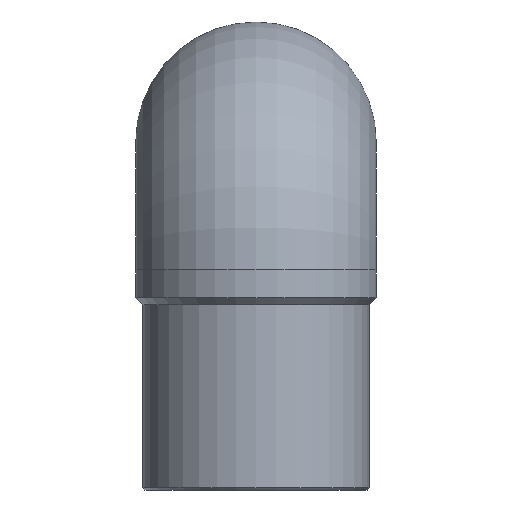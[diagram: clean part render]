
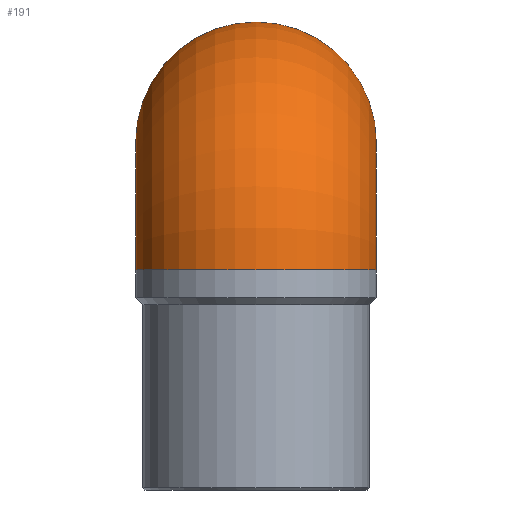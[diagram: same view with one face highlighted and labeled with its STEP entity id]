
A CAD part, left-side view. The second image highlights one B-rep face of the part: STEP entity #191.
In plain terms, the highlighted toroidal (fillet/blend) face has major radius 62 mm and minor radius 58.5 mm.
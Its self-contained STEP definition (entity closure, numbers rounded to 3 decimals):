
#20=TOROIDAL_SURFACE('',#231,62.,58.5);
#59=ORIENTED_EDGE('',*,*,#77,.F.);
#60=ORIENTED_EDGE('',*,*,#79,.T.);
#77=EDGE_CURVE('',#96,#96,#114,.F.);
#79=EDGE_CURVE('',#98,#98,#116,.F.);
#96=VERTEX_POINT('',#312);
#98=VERTEX_POINT('',#318);
#114=CIRCLE('',#217,58.5);
#116=CIRCLE('',#221,58.5);
#142=EDGE_LOOP('',(#59));
#143=EDGE_LOOP('',(#60));
#169=FACE_BOUND('',#142,.T.);
#170=FACE_BOUND('',#143,.T.);
#191=ADVANCED_FACE('',(#169,#170),#20,.T.);
#217=AXIS2_PLACEMENT_3D('',#311,#256,#257);
#221=AXIS2_PLACEMENT_3D('',#317,#264,#265);
#231=AXIS2_PLACEMENT_3D('',#365,#284,#285);
#256=DIRECTION('',(-1.,0.,0.));
#257=DIRECTION('',(0.,0.,-1.));
#264=DIRECTION('',(0.,0.,-1.));
#265=DIRECTION('',(1.,0.,0.));
#284=DIRECTION('',(0.,1.,0.));
#285=DIRECTION('',(0.,0.,1.));
#311=CARTESIAN_POINT('',(62.,0.,169.));
#312=CARTESIAN_POINT('',(62.,0.,110.5));
#317=CARTESIAN_POINT('',(0.,0.,107.));
#318=CARTESIAN_POINT('',(58.5,0.,107.));
#365=CARTESIAN_POINT('',(62.,0.,107.));
